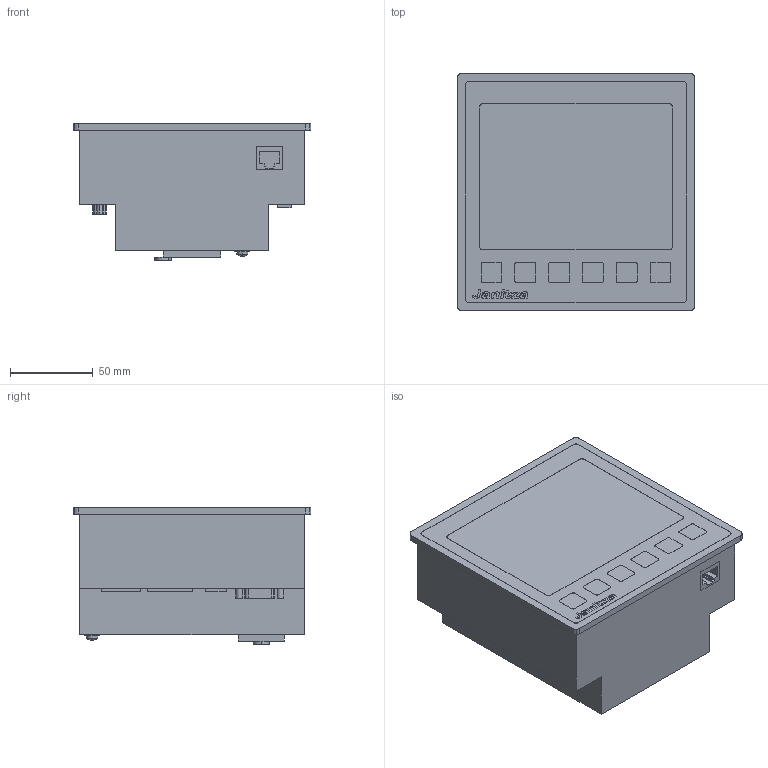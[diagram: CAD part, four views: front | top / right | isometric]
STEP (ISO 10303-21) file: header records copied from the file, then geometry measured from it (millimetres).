
FILE_DESCRIPTION((''),'2;1');
FILE_NAME('C:\Janitza\step-iges\UMG512.stp','2014-12-03T23:04:14',('Potschkay'),(''),'Autodesk Inventor 7','Autodesk Inventor 7','');
FILE_SCHEMA(('AUTOMOTIVE_DESIGN { 1 0 10303 214 1 1 1 1 }'));
Length unit declared in the file: millimetre
Products named in the file (17): UMG512; RJ45; RS485; DIN ISO 7049 - F-H ST3.5 x 9.5 - F - H; DIN 125-1  A A 4; Display508; Blende_512; Taste3; Taste4; Batteriedeckel; Steckleiste1; Steckleiste2; Steckleiste3; Steckleiste4; Steckleiste5; Steckleiste6
Assembly tree (20 placements, depth 2):
  UMG512
    UMG512
    RJ45
    RS485
    DIN ISO 7049 - F-H ST3.5 x 9.5 - F - H
    DIN 125-1  A A 4
    Display508
    Blende_512
    Taste3  x2
    Taste4  x4
    Batteriedeckel
    Steckleiste1
    Steckleiste2
    Steckleiste3
    Steckleiste4
    Steckleiste5
    Steckleiste6
Bounding box: 144 x 144 x 83 mm (x, y, z)
Volume: 1268732.3 mm3; surface area: 155734.8 mm2
Topology: 22 solids, 22 shells, 1118 faces, 2937 edges, 1924 vertices
Faces by surface type: plane 644, cylinder 267, bspline 121, cone 78, torus 6, sphere 2
Entity records: 34879 total; most frequent: CARTESIAN_POINT 8265, ORIENTED_EDGE 5562, DIRECTION 5181, EDGE_CURVE 2781, VECTOR 2025, LINE 2025, VERTEX_POINT 1828, AXIS2_PLACEMENT_3D 1578
